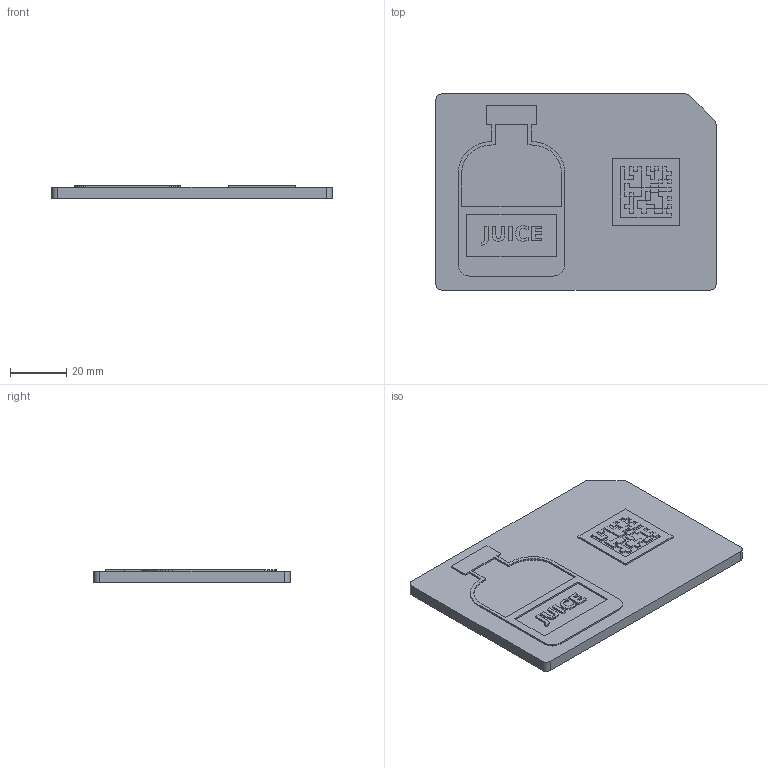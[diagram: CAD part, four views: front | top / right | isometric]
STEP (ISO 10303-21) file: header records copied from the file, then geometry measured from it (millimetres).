
FILE_DESCRIPTION(('Open CASCADE Model'),'2;1');
FILE_NAME('Open CASCADE Shape Model','2026-10-14T18:10:05',('Author'),( 'Open CASCADE'),'Open CASCADE STEP processor 7.9','Open CASCADE 7.9' ,'Unknown');
FILE_SCHEMA(('AUTOMOTIVE_DESIGN { 1 0 10303 214 1 1 1 1 }'));
Length unit declared in the file: millimetre
Products named in the file (3): SN-4834; SN-4834_base_dark; SN-4834_features_red
Assembly tree (2 placements, depth 2):
  SN-4834
    SN-4834_base_dark
    SN-4834_features_red
Bounding box: 100 x 70 x 4.6 mm (x, y, z)
Volume: 28467.8 mm3; surface area: 19362.7 mm2
Topology: 8 solids, 8 shells, 653 faces, 1848 edges, 1232 vertices
Faces by surface type: plane 648, cylinder 5
Entity records: 44284 total; most frequent: CARTESIAN_POINT 8050, DIRECTION 6258, LINE 4918, VECTOR 4918, ORIENTED_EDGE 3696, PCURVE 3696, DEFINITIONAL_REPRESENTATION 3696, EDGE_CURVE 1848
